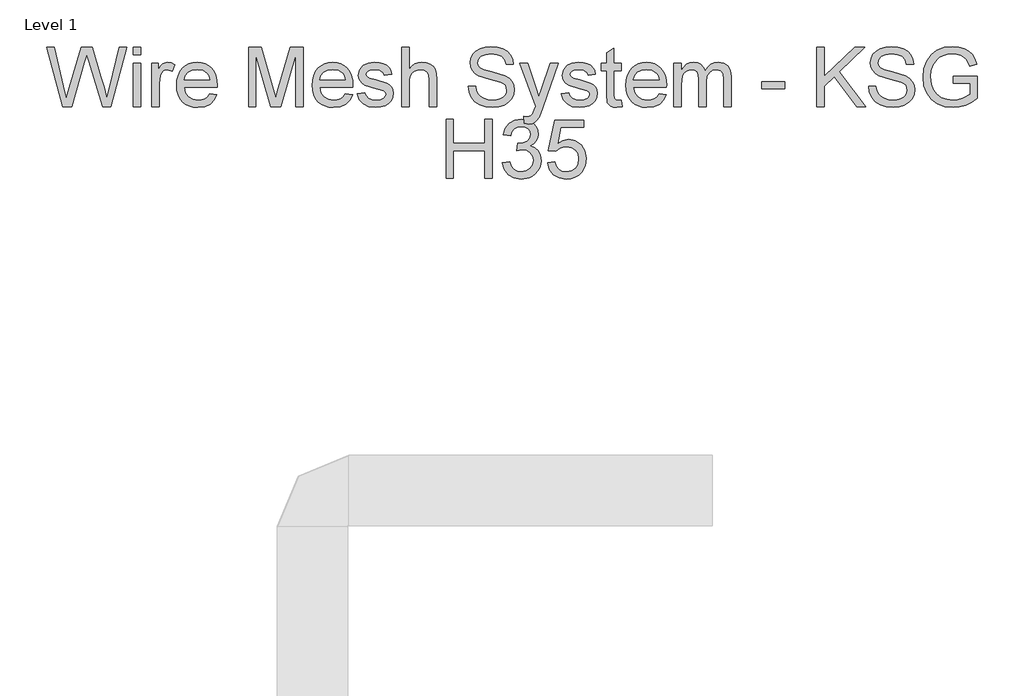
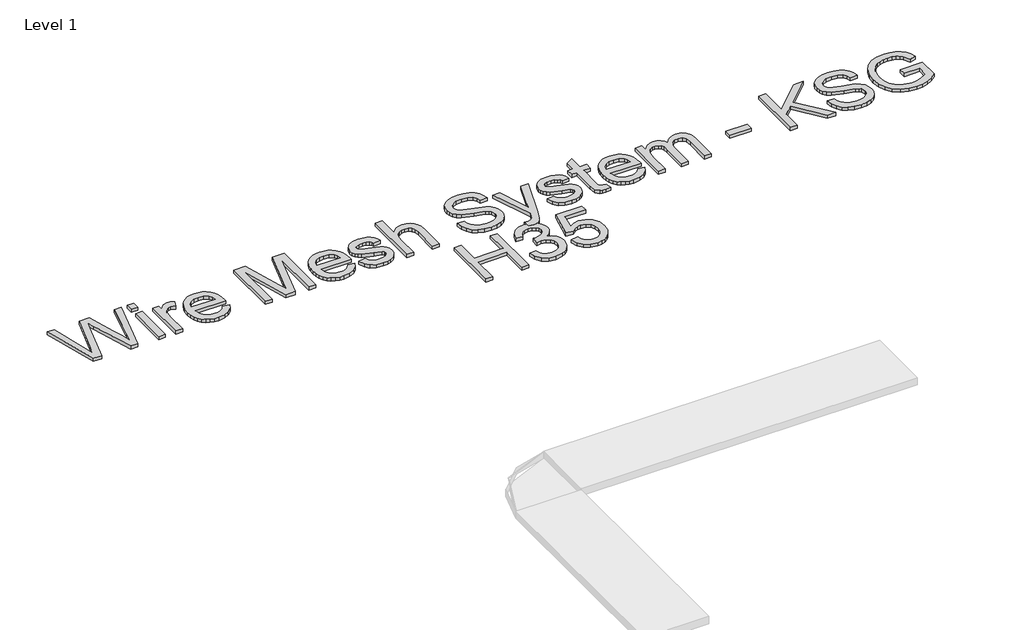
# One storey, part 78 of 106: 1 proxy.
"""IFC4 building model written with IfcOpenShell, lengths in millimetres."""

import ifcopenshell
import ifcopenshell.guid

model = None  # the IFC model being written
_history = None  # IfcOwnerHistory: only IFC2X3 demands one
_inside = {}  # id of a spatial element -> (the spatial element, [elements in it])
_under = {}  # id of a project, library or spatial element -> (it, [spatial elements below it])
_declared = {}  # id of a project -> (the project, [libraries it declares])
_typed = {}  # id of a type object -> (the type object, [elements of that type])
_made_of = {}  # id of a material, layer set ... -> (it, [elements and type objects made of it])


def new_model(schema):
    """Start an empty IFC model of exactly this schema.

    Asked for "IFC4X3", IfcOpenShell would pick the latest addendum, in which some entities
    have other attributes; the version numbers below select the first issue.
    IFC2X3 requires an IfcOwnerHistory on every rooted entity: one is made here for all.
    """
    global model, _history
    if schema == "IFC4X3":
        model = ifcopenshell.file(schema_version=(4, 3, 0, 0))
    else:
        model = ifcopenshell.file(schema=schema)
    _inside.clear()
    _under.clear()
    _declared.clear()
    _typed.clear()
    _made_of.clear()
    _history = None
    if model.schema == "IFC2X3":
        org = make("IfcOrganization", Name="unknown")
        user = make(
            "IfcPersonAndOrganization",
            ThePerson=make("IfcPerson", FamilyName="unknown"),
            TheOrganization=org,
        )
        app = make(
            "IfcApplication",
            ApplicationDeveloper=org,
            Version="unknown",
            ApplicationFullName="unknown",
            ApplicationIdentifier="unknown",
        )
        _history = make(
            "IfcOwnerHistory",
            OwningUser=user,
            OwningApplication=app,
            ChangeAction="ADDED",
            CreationDate=0,
        )
    return model


def make(cls, **values):
    """One entity of the class cls with the attributes given. An attribute that is None is left unset."""
    return model.create_entity(
        cls, **{name: value for name, value in values.items() if value is not None}
    )


def rooted(cls, **values):
    """An entity with a GlobalId (a new one), such as an element, a storey or a relation."""
    return make(cls, GlobalId=ifcopenshell.guid.new(), OwnerHistory=_history, **values)


def si_unit(unit_type, name, prefix=None):
    """IfcSIUnit, for example si_unit("LENGTHUNIT", "METRE", prefix="MILLI")."""
    return make("IfcSIUnit", UnitType=unit_type, Prefix=prefix, Name=name)


def assignment(units):
    """IfcUnitAssignment: the units of a project."""
    return None if units is None else make("IfcUnitAssignment", Units=units)


def point(xyz):
    """IfcCartesianPoint."""
    return None if xyz is None else make("IfcCartesianPoint", Coordinates=xyz)


def direction(xyz):
    """IfcDirection."""
    return None if xyz is None else make("IfcDirection", DirectionRatios=xyz)


def frame(location, z_axis=None, x_axis=None):
    """IfcAxis2Placement3D, a coordinate frame: its origin and axes. An axis left out is left unset."""
    return make(
        "IfcAxis2Placement3D",
        Location=point(location),
        Axis=direction(z_axis),
        RefDirection=direction(x_axis),
    )


def origin():
    """The frame at (0, 0, 0) with its axes left unset."""
    return frame((0.0, 0.0, 0.0))


def origin_with_axes():
    """The frame at (0, 0, 0) with the z axis (0, 0, 1) and the x axis (1, 0, 0) written out."""
    return frame((0.0, 0.0, 0.0), z_axis=(0.0, 0.0, 1.0), x_axis=(1.0, 0.0, 0.0))


def place(relative_to, where):
    """IfcLocalPlacement: puts the frame where relative to a parent placement (None: the world)."""
    return make(
        "IfcLocalPlacement", PlacementRelTo=relative_to, RelativePlacement=where
    )


def context(
    kind, dimensions, precision=None, world=None, true_north=None, identifier=None
):
    """IfcGeometricRepresentationContext, for example the 3D "Model" context."""
    return make(
        "IfcGeometricRepresentationContext",
        ContextIdentifier=identifier,
        ContextType=kind,
        CoordinateSpaceDimension=dimensions,
        Precision=precision,
        WorldCoordinateSystem=world,
        TrueNorth=true_north,
    )


def project(units=None, contexts=None):
    """IfcProject with its units and contexts."""
    return rooted(
        "IfcProject",
        Name="project",
        RepresentationContexts=contexts,
        UnitsInContext=assignment(units),
    )


def spatial(cls, under=None, at=None, **own):
    """A site, building, storey or space (cls), placed at a placement, below another one or the project."""
    s = rooted(cls, ObjectPlacement=at, **own)
    if under is not None:
        _under.setdefault(under.id(), (under, []))[1].append(s)
    return s


def polyline(points):
    """IfcPolyline through the points."""
    return make("IfcPolyline", Points=[point(p) for p in points])


def outline(outer, holes=None, kind="AREA"):
    """IfcArbitraryClosedProfileDef: a profile drawn as a closed curve; with holes, ...WithVoids."""
    if holes is None:
        return make("IfcArbitraryClosedProfileDef", ProfileType=kind, OuterCurve=outer)
    return make(
        "IfcArbitraryProfileDefWithVoids",
        ProfileType=kind,
        OuterCurve=outer,
        InnerCurves=holes,
    )


def extrude(swept, where, along, depth):
    """IfcExtrudedAreaSolid: the profile swept, set in the frame where, extruded along a direction by depth."""
    return make(
        "IfcExtrudedAreaSolid",
        SweptArea=swept,
        Position=where,
        ExtrudedDirection=direction(along),
        Depth=depth,
    )


def shape(context_of_items, identifier, shape_type, items):
    """IfcShapeRepresentation: the items that make up one representation, for example the "Body"."""
    return make(
        "IfcShapeRepresentation",
        ContextOfItems=context_of_items,
        RepresentationIdentifier=identifier,
        RepresentationType=shape_type,
        Items=items,
    )


def made_of(thing, what):
    """Note that an element or type object is made of a material, layer set ...; save() writes the relation."""
    if what is not None:
        _made_of.setdefault(what.id(), (what, []))[1].append(thing)
    return thing


def element(
    cls,
    number,
    at=None,
    inside=None,
    cuts=None,
    type_object=None,
    material=None,
    context=None,
    identifier="Body",
    shape_type=None,
    held_by="IfcProductDefinitionShape",
    body=None,
    shapes=None,
    **own,
):
    """One element of the class cls, such as IfcWall. Its Tag is "e" and its number.

    at: its placement. inside: the storey or other place that contains it. cuts: it is an
    opening in that element (IfcRelVoidsElement). A single representation is given by context,
    identifier, shape_type and body (its items); several are given by shapes. held_by: the class
    of the entity that holds the representations. save() writes the other relations.
    """
    e = rooted(cls, Tag="e%d" % number, ObjectPlacement=at, **own)
    if body is not None:
        shapes = [shape(context, identifier, shape_type, body)]
    if shapes is not None:
        e.Representation = make(held_by, Representations=shapes)
    if inside is not None:
        _inside.setdefault(inside.id(), (inside, []))[1].append(e)
    if cuts is not None:
        rooted(
            "IfcRelVoidsElement", RelatingBuildingElement=cuts, RelatedOpeningElement=e
        )
    if type_object is not None:
        _typed.setdefault(type_object.id(), (type_object, []))[1].append(e)
    return made_of(e, material)


def aggregate(whole, parts):
    """IfcRelAggregates: a whole, such as a stair, and the parts it consists of."""
    return rooted("IfcRelAggregates", RelatingObject=whole, RelatedObjects=parts)


def save(model, path):
    """Write the relations noted so far, then the file.

    IfcRelAggregates (storeys below a building ...), IfcRelContainedInSpatialStructure (elements
    in a storey), IfcRelDefinesByType, IfcRelAssociatesMaterial and IfcRelDeclares: one each for
    every whole, place, type object, material and project.
    """
    for whole, parts in _under.values():
        aggregate(whole, parts)
    for where, things in _inside.values():
        rooted(
            "IfcRelContainedInSpatialStructure",
            RelatedElements=things,
            RelatingStructure=where,
        )
    for kind, things in _typed.values():
        rooted("IfcRelDefinesByType", RelatedObjects=things, RelatingType=kind)
    for what, things in _made_of.values():
        rooted("IfcRelAssociatesMaterial", RelatedObjects=things, RelatingMaterial=what)
    for by, libraries in _declared.values():
        rooted("IfcRelDeclares", RelatingContext=by, RelatedDefinitions=libraries)
    model.write(path)


model = new_model("IFC4")

# Units and contexts
model_context = context("Model", 3, world=origin())
ifc_project = project(units=[si_unit("LENGTHUNIT", "METRE", prefix="MILLI")], contexts=[model_context])

# Site, building, storey
site = spatial("IfcSite", under=ifc_project)
building = spatial("IfcBuilding", under=site)
storey = spatial("IfcBuildingStorey", under=building, Name="Level 1", Elevation=0.0)

# Proxy
placement = place(None, origin())
element("IfcBuildingElementProxy", 1, Name="250mm Arial 3", ObjectType="250mm Arial 3", at=placement, inside=storey, context=model_context, shape_type="SweptSolid", body=[
    extrude(outline(polyline([(11206.4057877, 71503.1379564), (11137.9184229, 71754.2787318), (11170.2920385, 71754.2787318), (11210.0232939, 71589.2223433), (11222.2860271, 71538.2706869), (11235.4071516, 71583.3362313), (11285.1938483, 71754.2787318), (11331.853548, 71754.2787318), (11368.0286109, 71630.3638131), (11383.5256399, 71584.3785637), (11394.9453102, 71538.2706869), (11406.8401614, 71587.7508153), (11446.9392988, 71754.2787318), (11479.3129144, 71754.2787318), (11410.764236, 71503.1379564), (11377.2256608, 71503.1379564), (11317.0156409, 71696.8891405), (11308.6156686, 71723.9284672), (11299.1733641, 71691.3709106), (11244.2976332, 71503.1379564), (11206.4057877, 71503.1379564)])), origin_with_axes(), (0.0, 0.0, 1.0), 15.0),
    extrude(outline(polyline([(11506.7814367, 71722.8861348), (11506.7814367, 71754.2787318), (11538.1740336, 71754.2787318), (11538.1740336, 71722.8861348), (11506.7814367, 71722.8861348)])), origin_with_axes(), (0.0, 0.0, 1.0), 15.0),
    extrude(outline(polyline([(11506.7814367, 71503.1379564), (11506.7814367, 71687.5694633), (11538.1740336, 71687.5694633), (11538.1740336, 71503.1379564), (11506.7814367, 71503.1379564)])), origin_with_axes(), (0.0, 0.0, 1.0), 15.0),
    extrude(outline(polyline([(11585.262929, 71503.1379564), (11585.262929, 71687.5694633), (11612.7314513, 71687.5694633), (11612.7314513, 71660.284882), (11622.878863, 71676.1038078), (11632.2291971, 71685.423485), (11651.8495701, 71691.4935379), (11667.4845549, 71689.0716481), (11683.3647944, 71681.8059787), (11672.8801575, 71653.6630061), (11650.8072378, 71660.100941), (11641.4339112, 71658.5527709), (11633.0569316, 71653.9082608), (11621.7445602, 71636.7404343), (11616.6555259, 71600.0748621), (11616.6555259, 71503.1379564), (11585.262929, 71503.1379564)])), origin_with_axes(), (0.0, 0.0, 1.0), 15.0),
    extrude(outline(polyline([(11832.1117478, 71558.075001), (11862.891208, 71554.1509264), (11851.8010987, 71530.9590323), (11834.1044419, 71513.6225933), (11810.1997764, 71502.8160597), (11780.4856411, 71499.2138818), (11761.0070559, 71500.7678), (11743.6514564, 71505.4295547), (11728.4188425, 71513.1991458), (11715.3092143, 71524.0765733), (11704.7670959, 71537.759101), (11697.2370113, 71553.9439928), (11692.7189606, 71572.6312485), (11691.2129436, 71593.8208682), (11692.734289, 71615.7290074), (11697.298325, 71635.0389801), (11704.9050516, 71651.7507861), (11715.554469, 71665.8644256), (11728.6296082, 71677.0771622), (11743.5135006, 71685.0862598), (11760.2061461, 71689.8917184), (11778.7075448, 71691.4935379), (11796.6130513, 71689.8955505), (11812.8056072, 71685.1015883), (11827.2852127, 71677.1116512), (11840.0518675, 71665.9257393), (11850.4732747, 71651.8427566), (11857.9171369, 71635.1616074), (11862.3834543, 71615.8822916), (11863.8722267, 71594.0048092), (11863.6882857, 71585.5435233), (11722.6055406, 71585.5435233), (11728.0394642, 71562.0450609), (11740.6624152, 71544.7699355), (11758.8802381, 71534.1473429), (11781.0987778, 71530.6064787), (11797.8067517, 71532.2466193), (11811.8782381, 71537.1670409), (11823.3132367, 71545.6743121), (11832.1117478, 71558.075001)]), holes=[polyline([(11722.6055406, 71616.9361202), (11832.4796298, 71616.9361202), (11828.2336584, 71633.5214669), (11819.9103283, 71645.3856612), (11801.608199, 71656.4221211), (11778.5849175, 71660.100941), (11757.4240386, 71657.1655493), (11739.9266512, 71648.359374), (11727.7635527, 71634.632777), (11722.6055406, 71616.9361202)])]), origin_with_axes(), (0.0, 0.0, 1.0), 15.0),
    extrude(outline(polyline([(11997.2907636, 71503.1379564), (11997.2907636, 71754.2787318), (12051.3081032, 71754.2787318), (12102.6889552, 71577.2661784), (12113.0509648, 71540.2940379), (12124.2713656, 71580.3318617), (12174.7938263, 71754.2787318), (12228.8111659, 71754.2787318), (12228.8111659, 71503.1379564), (12197.418569, 71503.1379564), (12197.418569, 71722.8861348), (12134.3268068, 71503.1379564), (12091.7751227, 71503.1379564), (12028.6833605, 71722.8861348), (12028.6833605, 71503.1379564), (11997.2907636, 71503.1379564)])), origin_with_axes(), (0.0, 0.0, 1.0), 15.0),
    extrude(outline(polyline([(12408.9507162, 71558.075001), (12439.7301765, 71554.1509264), (12428.6400672, 71530.9590323), (12410.9434104, 71513.6225933), (12387.0387449, 71502.8160597), (12357.3246096, 71499.2138818), (12337.8460243, 71500.7678), (12320.4904248, 71505.4295547), (12305.2578109, 71513.1991458), (12292.1481828, 71524.0765733), (12281.6060643, 71537.759101), (12274.0759797, 71553.9439928), (12269.557929, 71572.6312485), (12268.0519121, 71593.8208682), (12269.5732574, 71615.7290074), (12274.1372934, 71635.0389801), (12281.7440201, 71651.7507861), (12292.3934374, 71665.8644256), (12305.4685767, 71677.0771622), (12320.3524691, 71685.0862598), (12337.0451146, 71689.8917184), (12355.5465133, 71691.4935379), (12373.4520197, 71689.8955505), (12389.6445757, 71685.1015883), (12404.1241811, 71677.1116512), (12416.890836, 71665.9257393), (12427.3122431, 71651.8427566), (12434.7561053, 71635.1616074), (12439.2224227, 71615.8822916), (12440.7111951, 71594.0048092), (12440.5272541, 71585.5435233), (12299.444509, 71585.5435233), (12304.8784326, 71562.0450609), (12317.5013836, 71544.7699355), (12335.7192066, 71534.1473429), (12357.9377462, 71530.6064787), (12374.6457202, 71532.2466193), (12388.7172065, 71537.1670409), (12400.1522052, 71545.6743121), (12408.9507162, 71558.075001)]), holes=[polyline([(12299.444509, 71616.9361202), (12409.3185982, 71616.9361202), (12405.0726269, 71633.5214669), (12396.7492967, 71645.3856612), (12378.4471675, 71656.4221211), (12355.4238859, 71660.100941), (12334.263007, 71657.1655493), (12316.7656196, 71648.359374), (12304.6025211, 71634.632777), (12299.444509, 71616.9361202)])]), origin_with_axes(), (0.0, 0.0, 1.0), 15.0),
    extrude(outline(polyline([(12460.3315682, 71558.075001), (12491.7241651, 71561.9990756), (12496.6752437, 71548.5713828), (12506.2555039, 71538.6998826), (12520.5262597, 71532.6298297), (12539.5488245, 71530.6064787), (12558.3414631, 71532.4612171), (12571.5545581, 71538.0254323), (12579.3720505, 71546.0881793), (12581.9778813, 71555.4385134), (12579.3567221, 71563.4399468), (12571.4932444, 71569.5406565), (12539.1809425, 71578.4924517), (12491.9081061, 71593.851525), (12479.9442771, 71601.5693827), (12471.2760576, 71611.7857723), (12466.0107465, 71623.8492361), (12464.2556428, 71637.1083163), (12469.8965001, 71660.4994798), (12485.2862302, 71678.3724134), (12505.2438285, 71687.6614338), (12532.2524983, 71691.4935379), (12552.6852774, 71689.9530321), (12570.4509121, 71685.3315145), (12584.7369963, 71678.0811735), (12594.7311238, 71668.6541974), (12601.3529997, 71656.3531432), (12605.522329, 71640.4805679), (12574.1297321, 71636.5564933), (12570.1673364, 71646.4356577), (12562.3268514, 71653.8776039), (12550.5316349, 71658.5451067), (12534.7050449, 71660.100941), (12516.6788271, 71658.6140846), (12504.6613486, 71654.1535154), (12497.901517, 71647.7155805), (12495.6482398, 71640.2966269), (12499.3883734, 71631.1608907), (12511.0992836, 71624.2324465), (12538.1386102, 71617.5492569), (12584.2158301, 71602.7726634), (12596.3865928, 71595.7062634), (12605.6142995, 71586.0340326), (12611.4314335, 71573.7253142), (12613.3704782, 71558.7494513), (12611.0942084, 71543.2677507), (12604.2653988, 71528.7057551), (12593.1446327, 71516.2054314), (12577.992493, 71506.9087468), (12559.6903637, 71501.137598), (12539.1196289, 71499.2138818), (12507.4664488, 71502.9233586), (12484.3665252, 71514.0517889), (12468.9461383, 71532.4765455), (12460.3315682, 71558.075001)])), origin_with_axes(), (0.0, 0.0, 1.0), 15.0),
    extrude(outline(polyline([(12648.6871497, 71503.1379564), (12648.6871497, 71754.2787318), (12680.0797467, 71754.2787318), (12680.0797467, 71661.940351), (12691.610548, 71674.8698703), (12704.5592278, 71684.1052412), (12718.9257861, 71689.6464637), (12734.710223, 71691.4935379), (12753.6714741, 71689.4778512), (12769.9655808, 71683.4307909), (12782.7954654, 71673.8275379), (12791.3640502, 71661.1432733), (12796.1925014, 71643.7148638), (12797.8019851, 71619.8791762), (12797.8019851, 71503.1379564), (12766.4093882, 71503.1379564), (12766.4093882, 71616.6295519), (12763.9108563, 71636.2805818), (12756.4152607, 71649.7389315), (12744.3364685, 71657.5104386), (12728.088347, 71660.100941), (12714.8216026, 71658.3535015), (12702.3672642, 71653.1111831), (12692.0512399, 71644.8798235), (12685.1994378, 71634.1652603), (12681.3596694, 71619.9251614), (12680.0797467, 71601.1171944), (12680.0797467, 71503.1379564), (12648.6871497, 71503.1379564)])), origin_with_axes(), (0.0, 0.0, 1.0), 15.0),
    extrude(outline(polyline([(12931.220522, 71589.4675979), (12962.613119, 71589.4675979), (12966.2152968, 71572.0468526), (12972.7298738, 71558.0443442), (12982.8926139, 71546.9312422), (12997.4392812, 71538.1787164), (13015.2202443, 71532.4995381), (13035.085872, 71530.6064787), (13052.5755952, 71532.0396856), (13067.8886833, 71536.3393065), (13080.2970364, 71543.1451234), (13089.0725548, 71552.0969186), (13094.2918806, 71562.3746218), (13096.0316559, 71573.1581628), (13090.8199943, 71592.7478791), (13082.8798746, 71600.4963936), (13069.4828386, 71607.0033064), (13023.7735007, 71618.990128), (12974.5692838, 71634.4718287), (12958.9419632, 71645.0331076), (12947.8671823, 71657.8323354), (12941.268299, 71672.5936004), (12939.0686713, 71689.0409913), (12941.7894652, 71707.4274268), (12949.951847, 71724.5722607), (12963.3412187, 71739.1035995), (12981.7429827, 71749.64955), (13003.8312308, 71756.0644923), (13028.2800551, 71758.2028064), (13054.7675588, 71755.9648576), (13077.9441245, 71749.2510112), (13096.9820177, 71738.1992229), (13111.053504, 71722.9474485), (13119.959314, 71704.4460498), (13123.5001782, 71683.6453887), (13092.1075813, 71683.6453887), (13086.3440967, 71702.3767136), (13074.3266182, 71715.8963769), (13055.549308, 71724.0817513), (13029.5063284, 71726.8102095), (13002.8502122, 71724.1124082), (12984.5634113, 71716.0190043), (12973.986804, 71704.1088247), (12970.4612682, 71689.9606963), (12972.9598001, 71677.8972325), (12980.4553957, 71668.1943449), (12998.1750452, 71659.5184612), (13031.7136204, 71650.6586365), (13087.2638017, 71634.9010243), (13105.1597279, 71623.5120109), (13117.6447231, 71609.455853), (13124.9793704, 71592.8858348), (13127.4242528, 71573.9552405), (13124.6114884, 71554.6031147), (13116.1731951, 71536.4006201), (13102.4542624, 71520.7349785), (13083.7995795, 71508.9934115), (13061.366442, 71501.6587642), (13036.3121453, 71499.2138818), (13005.5556777, 71501.8503694), (12980.2407979, 71509.7598323), (12960.076266, 71522.9729273), (12944.7708422, 71541.5203112), (12934.9453272, 71564.1143971), (12931.220522, 71589.4675979)])), origin_with_axes(), (0.0, 0.0, 1.0), 15.0),
    extrude(outline(polyline([(13170.5890736, 71432.5046133), (13166.664999, 71462.7322506), (13182.6065521, 71459.9731356), (13197.5057729, 71463.4373577), (13206.6415091, 71473.0942601), (13215.2254223, 71496.2095122), (13217.677969, 71503.8124067), (13150.9687005, 71687.5694633), (13184.0780801, 71687.5694633), (13219.4560653, 71585.1756413), (13231.7801121, 71544.2181125), (13244.1041589, 71580.3931754), (13280.4631628, 71687.5694633), (13313.3272877, 71687.5694633), (13249.1318795, 71498.7233725), (13232.4545624, 71457.7658437), (13223.9166345, 71444.6907044), (13214.2444037, 71435.6316103), (13203.0086744, 71430.3433066), (13189.780251, 71428.5805387), (13170.5890736, 71432.5046133)])), origin_with_axes(), (0.0, 0.0, 1.0), 15.0),
    extrude(outline(polyline([(13327.5520582, 71558.075001), (13358.9446551, 71561.9990756), (13363.8957336, 71548.5713828), (13373.4759939, 71538.6998826), (13387.7467496, 71532.6298297), (13406.7693145, 71530.6064787), (13425.5619531, 71532.4612171), (13438.7750481, 71538.0254323), (13446.5925405, 71546.0881793), (13449.1983713, 71555.4385134), (13446.577212, 71563.4399468), (13438.7137344, 71569.5406565), (13406.4014325, 71578.4924517), (13359.1285961, 71593.851525), (13347.164767, 71601.5693827), (13338.4965475, 71611.7857723), (13333.2312365, 71623.8492361), (13331.4761328, 71637.1083163), (13337.1169901, 71660.4994798), (13352.5067202, 71678.3724134), (13372.4643184, 71687.6614338), (13399.4729882, 71691.4935379), (13419.9057674, 71689.9530321), (13437.6714021, 71685.3315145), (13451.9574862, 71678.0811735), (13461.9516138, 71668.6541974), (13468.5734897, 71656.3531432), (13472.7428189, 71640.4805679), (13441.350222, 71636.5564933), (13437.3878264, 71646.4356577), (13429.5473413, 71653.8776039), (13417.7521249, 71658.5451067), (13401.9255349, 71660.100941), (13383.8993171, 71658.6140846), (13371.8818386, 71654.1535154), (13365.1220069, 71647.7155805), (13362.8687297, 71640.2966269), (13366.6088633, 71631.1608907), (13378.3197735, 71624.2324465), (13405.3591002, 71617.5492569), (13451.4363201, 71602.7726634), (13463.6070827, 71595.7062634), (13472.8347894, 71586.0340326), (13478.6519235, 71573.7253142), (13480.5909682, 71558.7494513), (13478.3146983, 71543.2677507), (13471.4858888, 71528.7057551), (13460.3651226, 71516.2054314), (13445.212983, 71506.9087468), (13426.9108537, 71501.137598), (13406.3401188, 71499.2138818), (13374.6869388, 71502.9233586), (13351.5870152, 71514.0517889), (13336.1666282, 71532.4765455), (13327.5520582, 71558.075001)])), origin_with_axes(), (0.0, 0.0, 1.0), 15.0),
    extrude(outline(polyline([(13582.6169082, 71529.3188917), (13586.5409828, 71502.2182514), (13563.0578488, 71499.2138818), (13547.9900154, 71500.5167972), (13536.7542861, 71504.4255434), (13523.6331616, 71518.0984909), (13519.8317143, 71553.7217307), (13519.8317143, 71656.1768664), (13496.2872666, 71656.1768664), (13496.2872666, 71687.5694633), (13519.8317143, 71687.5694633), (13519.8317143, 71732.3897531), (13551.2243112, 71750.8451665), (13551.2243112, 71687.5694633), (13582.6169082, 71687.5694633), (13582.6169082, 71656.1768664), (13551.2243112, 71656.1768664), (13551.2243112, 71554.6414357), (13552.8797802, 71538.4546279), (13558.244726, 71532.7218002), (13568.9439607, 71530.6064787), (13582.6169082, 71529.3188917)])), origin_with_axes(), (0.0, 0.0, 1.0), 15.0),
    extrude(outline(polyline([(13743.1360854, 71558.075001), (13773.9155457, 71554.1509264), (13762.8254363, 71530.9590323), (13745.1287795, 71513.6225933), (13721.2241141, 71502.8160597), (13691.5099787, 71499.2138818), (13672.0313935, 71500.7678), (13654.675794, 71505.4295547), (13639.4431801, 71513.1991458), (13626.3335519, 71524.0765733), (13615.7914335, 71537.759101), (13608.2613489, 71553.9439928), (13603.7432982, 71572.6312485), (13602.2372812, 71593.8208682), (13603.7586266, 71615.7290074), (13608.3226626, 71635.0389801), (13615.9293893, 71651.7507861), (13626.5788066, 71665.8644256), (13639.6539458, 71677.0771622), (13654.5378382, 71685.0862598), (13671.2304838, 71689.8917184), (13689.7318824, 71691.4935379), (13707.6373889, 71689.8955505), (13723.8299449, 71685.1015883), (13738.3095503, 71677.1116512), (13751.0762051, 71665.9257393), (13761.4976123, 71651.8427566), (13768.9414745, 71635.1616074), (13773.4077919, 71615.8822916), (13774.8965643, 71594.0048092), (13774.7126233, 71585.5435233), (13633.6298782, 71585.5435233), (13639.0638018, 71562.0450609), (13651.6867528, 71544.7699355), (13669.9045757, 71534.1473429), (13692.1231154, 71530.6064787), (13708.8310893, 71532.2466193), (13722.9025757, 71537.1670409), (13734.3375743, 71545.6743121), (13743.1360854, 71558.075001)]), holes=[polyline([(13633.6298782, 71616.9361202), (13743.5039674, 71616.9361202), (13739.257996, 71633.5214669), (13730.9346659, 71645.3856612), (13712.6325366, 71656.4221211), (13689.6092551, 71660.100941), (13668.4483762, 71657.1655493), (13650.9509888, 71648.359374), (13638.7878903, 71634.632777), (13633.6298782, 71616.9361202)])]), origin_with_axes(), (0.0, 0.0, 1.0), 15.0),
    extrude(outline(polyline([(13806.2891612, 71503.1379564), (13806.2891612, 71687.5694633), (13837.6817582, 71687.5694633), (13837.6817582, 71657.2191987), (13847.1240627, 71671.1603935), (13859.2641685, 71682.0818902), (13873.6882084, 71689.140626), (13889.9823151, 71691.4935379), (13907.4413815, 71689.0946407), (13921.4362257, 71681.8979492), (13931.8902058, 71670.3786442), (13938.7266795, 71655.0119067), (13950.1693424, 71670.9726204), (13963.221489, 71682.3731301), (13977.8831194, 71689.213436), (13994.1542334, 71691.4935379), (14017.7523306, 71687.6997549), (14035.2037327, 71676.3184056), (14045.9872737, 71657.0429219), (14049.5817874, 71629.5667354), (14049.5817874, 71503.1379564), (14018.1891905, 71503.1379564), (14018.1891905, 71616.0777289), (14015.2767913, 71642.2893211), (14004.7308408, 71655.1958477), (13986.7965935, 71660.100941), (13969.7897155, 71656.9586156), (13955.9251628, 71647.5316395), (13946.7051203, 71631.1762191), (13943.6317728, 71607.248561), (13943.6317728, 71503.1379564), (13912.2391758, 71503.1379564), (13912.2391758, 71619.5726079), (13910.4227585, 71637.3229141), (13904.9735064, 71649.9841861), (13895.3855819, 71657.5717523), (13881.1531473, 71660.100941), (13869.0590267, 71658.4148152), (13857.9152679, 71653.3564378), (13848.718218, 71645.048436), (13842.4642241, 71633.6134374), (13837.6817582, 71596.1507875), (13837.6817582, 71503.1379564), (13806.2891612, 71503.1379564)])), origin_with_axes(), (0.0, 0.0, 1.0), 15.0),
    extrude(outline(polyline([(14179.0762497, 71577.6953741), (14179.0762497, 71609.087971), (14277.1781151, 71609.087971), (14277.1781151, 71577.6953741), (14179.0762497, 71577.6953741)])), origin_with_axes(), (0.0, 0.0, 1.0), 15.0),
    extrude(outline(polyline([(14414.5207266, 71503.1379564), (14414.5207266, 71754.2787318), (14445.9133235, 71754.2787318), (14445.9133235, 71631.3448317), (14574.6720218, 71754.2787318), (14618.5726066, 71754.2787318), (14510.4766137, 71651.0265185), (14622.4966812, 71503.1379564), (14584.1143264, 71503.1379564), (14488.219753, 71629.8119901), (14445.9133235, 71589.4675979), (14445.9133235, 71503.1379564), (14414.5207266, 71503.1379564)])), origin_with_axes(), (0.0, 0.0, 1.0), 15.0),
    extrude(outline(polyline([(14634.268905, 71589.4675979), (14665.661502, 71589.4675979), (14669.2636798, 71572.0468526), (14675.7782568, 71558.0443442), (14685.940997, 71546.9312422), (14700.4876642, 71538.1787164), (14718.2686273, 71532.4995381), (14738.134255, 71530.6064787), (14755.6239782, 71532.0396856), (14770.9370663, 71536.3393065), (14783.3454194, 71543.1451234), (14792.1209378, 71552.0969186), (14797.3402636, 71562.3746218), (14799.0800389, 71573.1581628), (14793.8683773, 71592.7478791), (14785.9282576, 71600.4963936), (14772.5312216, 71607.0033064), (14726.8218837, 71618.990128), (14677.6176668, 71634.4718287), (14661.9903462, 71645.0331076), (14650.9155653, 71657.8323354), (14644.316682, 71672.5936004), (14642.1170543, 71689.0409913), (14644.8378482, 71707.4274268), (14653.00023, 71724.5722607), (14666.3896018, 71739.1035995), (14684.7913657, 71749.64955), (14706.8796138, 71756.0644923), (14731.3284381, 71758.2028064), (14757.8159418, 71755.9648576), (14780.9925075, 71749.2510112), (14800.0304007, 71738.1992229), (14814.101887, 71722.9474485), (14823.007697, 71704.4460498), (14826.5485612, 71683.6453887), (14795.1559643, 71683.6453887), (14789.3924797, 71702.3767136), (14777.3750012, 71715.8963769), (14758.597691, 71724.0817513), (14732.5547114, 71726.8102095), (14705.8985952, 71724.1124082), (14687.6117943, 71716.0190043), (14677.035187, 71704.1088247), (14673.5096512, 71689.9606963), (14676.0081831, 71677.8972325), (14683.5037787, 71668.1943449), (14701.2234282, 71659.5184612), (14734.7620034, 71650.6586365), (14790.3121847, 71634.9010243), (14808.2081109, 71623.5120109), (14820.6931061, 71609.455853), (14828.0277534, 71592.8858348), (14830.4726358, 71573.9552405), (14827.6598714, 71554.6031147), (14819.2215781, 71536.4006201), (14805.5026454, 71520.7349785), (14786.8479625, 71508.9934115), (14764.414825, 71501.6587642), (14739.3605283, 71499.2138818), (14708.6040607, 71501.8503694), (14683.2891809, 71509.7598323), (14663.124649, 71522.9729273), (14647.8192252, 71541.5203112), (14637.9937102, 71564.1143971), (14634.268905, 71589.4675979)])), origin_with_axes(), (0.0, 0.0, 1.0), 15.0),
    extrude(outline(polyline([(14995.2837696, 71601.2398218), (14995.2837696, 71632.6324187), (15097.3097096, 71632.6324187), (15097.3097096, 71538.7611963), (15072.515996, 71521.5167277), (15046.9405331, 71509.1466957), (15020.6446347, 71501.6970852), (14993.6896143, 71499.2138818), (14958.4725775, 71503.160949), (14926.6431207, 71515.0021507), (14900.2016023, 71534.3236197), (14881.1483806, 71560.7114886), (14869.6290757, 71592.3646686), (14865.7893073, 71627.4820708), (14869.6137473, 71662.8523918), (14881.087067, 71695.7548377), (14899.7340856, 71723.3536516), (14925.0796222, 71742.8130763), (14955.951053, 71754.3553739), (14991.175754, 71758.2028064), (15017.0347926, 71755.9725218), (15040.2880004, 71749.281668), (15059.8700524, 71738.6130901), (15074.7156238, 71724.4496333), (15085.6984342, 71706.109183), (15093.6922034, 71682.9096247), (15064.7521531, 71674.7549071), (15050.4354121, 71703.7869279), (15040.0427457, 71713.1985756), (15025.9712594, 71720.5255587), (15009.1943076, 71725.2390468), (14990.6852447, 71726.8102095), (14969.018528, 71725.1164194), (14950.4941367, 71720.0350494), (14935.1810487, 71712.2022286), (14923.1482418, 71702.2540863), (14906.9920908, 71678.0658451), (14899.6344509, 71654.3681132), (14897.1819043, 71628.7696577), (14900.1326244, 71598.7489541), (14908.9847849, 71574.047211), (14923.4701385, 71554.8407051), (14943.3204378, 71541.3057134), (14966.550653, 71533.2812874), (14991.175754, 71530.6064787), (15012.9191128, 71532.6221655), (15034.125977, 71538.6692258), (15065.9171127, 71555.867709), (15065.9171127, 71601.2398218), (14995.2837696, 71601.2398218)])), origin_with_axes(), (0.0, 0.0, 1.0), 15.0),
    extrude(outline(polyline([(12837.0427313, 71198.2009118), (12837.0427313, 71449.3416872), (12868.4353282, 71449.3416872), (12868.4353282, 71347.3157472), (13001.8538651, 71347.3157472), (13001.8538651, 71449.3416872), (13033.246462, 71449.3416872), (13033.246462, 71198.2009118), (13001.8538651, 71198.2009118), (13001.8538651, 71315.9231502), (12868.4353282, 71315.9231502), (12868.4353282, 71198.2009118), (12837.0427313, 71198.2009118)])), origin_with_axes(), (0.0, 0.0, 1.0), 15.0),
    extrude(outline(polyline([(13076.4112828, 71264.9101802), (13107.8038797, 71268.8342549), (13114.8319587, 71249.1065829), (13125.1249903, 71235.786189), (13139.1888124, 71228.1986228), (13157.5292627, 71225.6694341), (13179.0503595, 71229.1489846), (13195.6663629, 71239.5876362), (13206.2889555, 71255.1613074), (13209.8298197, 71274.0459165), (13206.3196124, 71291.9724995), (13195.7889902, 71306.5115025), (13179.8474371, 71316.1454123), (13160.1044367, 71319.3567155), (13138.0928307, 71315.9231502), (13141.5877096, 71347.3157472), (13146.6154302, 71346.9478652), (13165.4233972, 71349.2011424), (13182.2386701, 71355.960974), (13194.1028644, 71367.3959727), (13198.0575959, 71383.674751), (13195.191182, 71397.2327354), (13186.5919404, 71408.2308742), (13173.4708159, 71415.5195362), (13157.0387534, 71417.9490902), (13140.5760341, 71415.4965436), (13127.1176845, 71408.1389037), (13117.2921695, 71395.8761705), (13111.7279543, 71378.7083441), (13080.3353574, 71382.6324187), (13089.5783925, 71410.8213766), (13106.0257834, 71431.8672924), (13128.5278988, 71444.9730885), (13155.9351074, 71449.3416872), (13175.6704436, 71447.1880446), (13193.7962961, 71440.7271171), (13209.0787273, 71430.5337202), (13220.2837998, 71417.1826694), (13227.1585945, 71401.8006035), (13229.4501928, 71385.514161), (13227.2735577, 71370.3390287), (13220.7436522, 71356.5741107), (13209.9524471, 71344.8478721), (13194.9919126, 71335.788778), (13214.6429425, 71327.8486582), (13229.2049381, 71314.3289949), (13238.218047, 71295.965552), (13241.2224166, 71273.4940935), (13239.7202318, 71257.5678688), (13235.2136774, 71242.8985742), (13227.7027533, 71229.4862098), (13217.1874596, 71217.3307755), (13204.3767356, 71207.2446775), (13189.9795204, 71200.0403218), (13156.4256168, 71194.2768372), (13126.0753522, 71199.1972589), (13101.3659448, 71213.9585239), (13084.18279, 71236.5372814), (13076.4112828, 71264.9101802)])), origin_with_axes(), (0.0, 0.0, 1.0), 15.0),
    extrude(outline(polyline([(13268.690939, 71264.9101802), (13300.0835359, 71268.8342549), (13305.8470205, 71249.9879668), (13315.9024617, 71236.4912961), (13330.2038742, 71228.3748996), (13348.7052729, 71225.6694341), (13371.2073883, 71229.4325603), (13388.0686464, 71240.7219391), (13398.5992685, 71258.2346549), (13402.1094759, 71280.6677924), (13398.8215305, 71301.7903503), (13388.9576945, 71317.9465012), (13372.4413258, 71328.2012118), (13349.1957822, 71331.6194487), (13333.9670005, 71330.2552196), (13321.6352894, 71326.1625324), (13304.0076105, 71311.9990756), (13272.6150136, 71315.9231502), (13300.0835359, 71445.4176125), (13421.7298489, 71445.4176125), (13421.7298489, 71414.0250156), (13325.4673935, 71414.0250156), (13312.0397007, 71344.8632005), (13334.465174, 71358.4748343), (13357.9636364, 71363.0120456), (13387.2945614, 71357.3865168), (13411.6437509, 71340.5099303), (13428.0374923, 71314.7888474), (13433.5020728, 71282.6298297), (13428.5816511, 71251.2372328), (13413.820386, 71224.3818471), (13400.7759036, 71211.2109053), (13385.5547861, 71201.8030897), (13368.1570334, 71196.1584003), (13348.5826456, 71194.2768372), (13317.7495359, 71199.1129526), (13293.1857485, 71213.6212987), (13276.347483, 71236.1157499), (13268.690939, 71264.9101802)])), origin_with_axes(), (0.0, 0.0, 1.0), 15.0),
])

save(model, "model.ifc")
